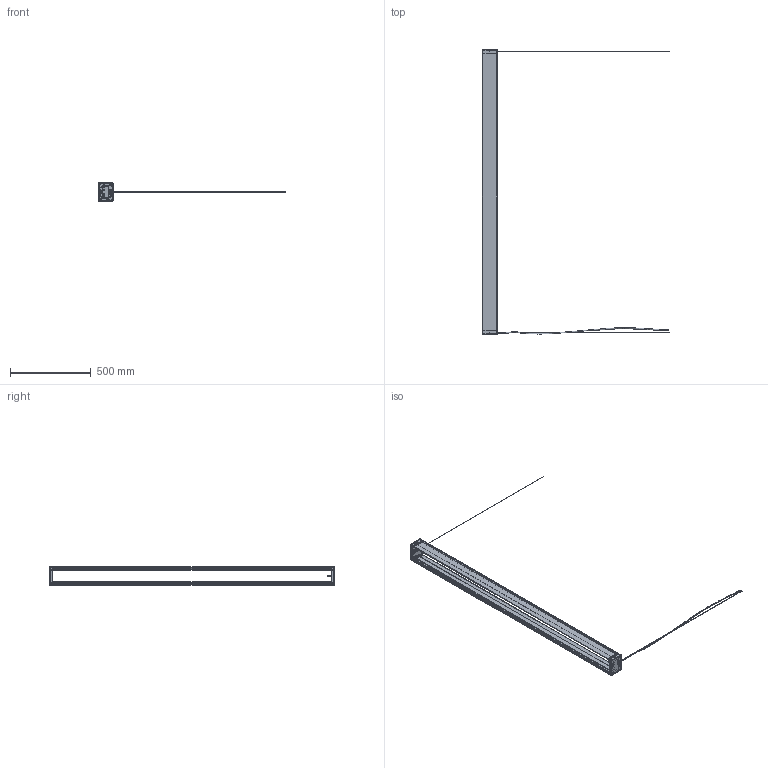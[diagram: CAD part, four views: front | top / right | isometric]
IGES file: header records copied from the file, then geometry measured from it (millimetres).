
Start section: SolidWorks IGES file using analytic representation for surfaces
Global section: file name: N:\- Ingeneria\DISEGNI\PRODOTTI\TRU\SOSPENSIONE\800TRULWW511_TRU SOSPESA UP-DOWN.IGS; native system: SolidWorks 2016; preprocessor: SolidWorks 2016; author: gpinheiro; date: 160915.172940; units: millimetre
Bounding box: 1155.15 x 1756.66 x 112.2 mm (x, y, z)
Volume: 1518418.4 mm3; surface area: 1920092.3 mm2
Topology: 22 solids, 22 shells, 9203 faces, 24352 edges, 15978 vertices
Faces by surface type: plane 7120, revolution 1292, bspline 791
